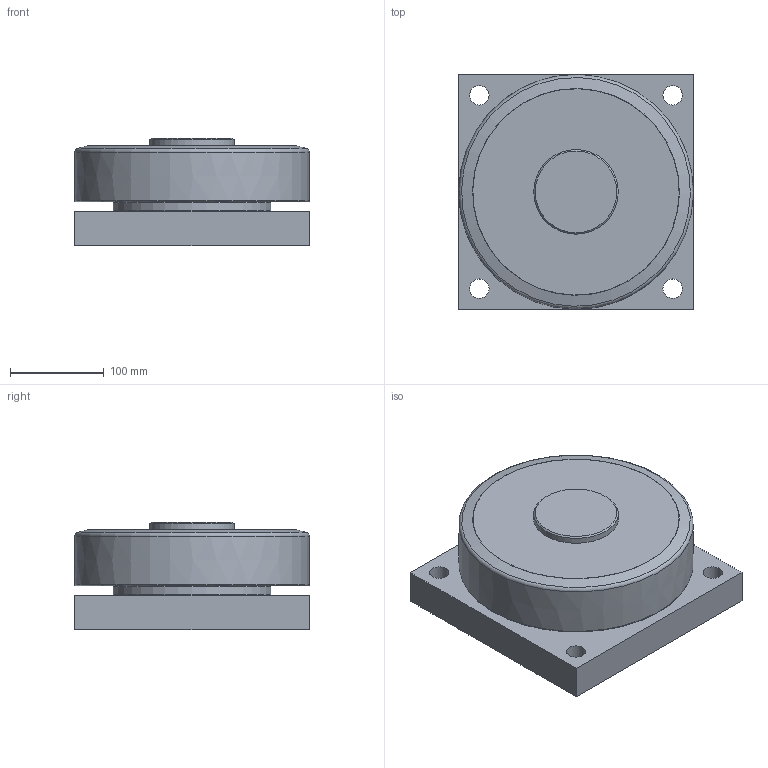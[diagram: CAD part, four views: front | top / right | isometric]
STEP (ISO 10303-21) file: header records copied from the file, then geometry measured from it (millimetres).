
FILE_DESCRIPTION((''),'2;1');
FILE_NAME('K:\Daten\KOMPONENTEN 2D + 3D\KOMPONENTEN Step-Files für extern\_ALFATEC_Mammutrollen und Profile\MR .0410\ALFATEC_MR 250.0410_BQ1000.stp','2013-10-01T17:03:08',('hipp'),(''),'Autodesk Inventor 2013','Autodesk Inventor 2013','');
FILE_SCHEMA(('CONFIG_CONTROL_DESIGN'));
Length unit declared in the file: millimetre
Products named in the file (1): MR 250.0410_BQ1000_Shrinkwrap_1
Bounding box: 250 x 250 x 115 mm (x, y, z)
Volume: 5290879 mm3; surface area: 284608.4 mm2
Topology: 1 solids, 1 shells, 29 faces, 62 edges, 40 vertices
Faces by surface type: plane 11, cylinder 8, cone 6, torus 3, bspline 1
Full cylindrical faces by diameter (mm): 20.752 x4, 90 x1, 111 x1, 120 x1, 168 x1
Entity records: 773 total; most frequent: CARTESIAN_POINT 130, DIRECTION 124, ORIENTED_EDGE 78, EDGE_LOOP 60, AXIS2_PLACEMENT_3D 56, EDGE_CURVE 39, VERTEX_POINT 35, FACE_BOUND 31
